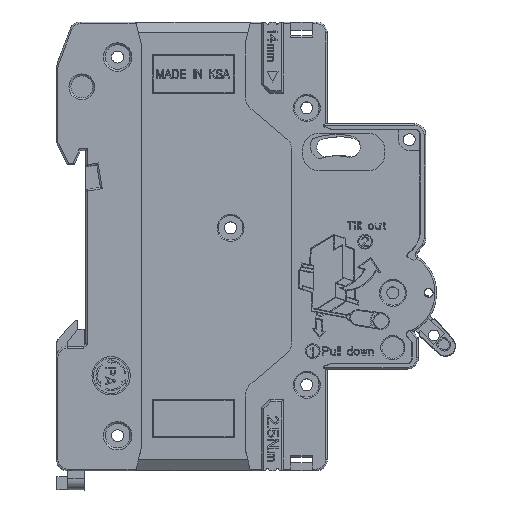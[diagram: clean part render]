
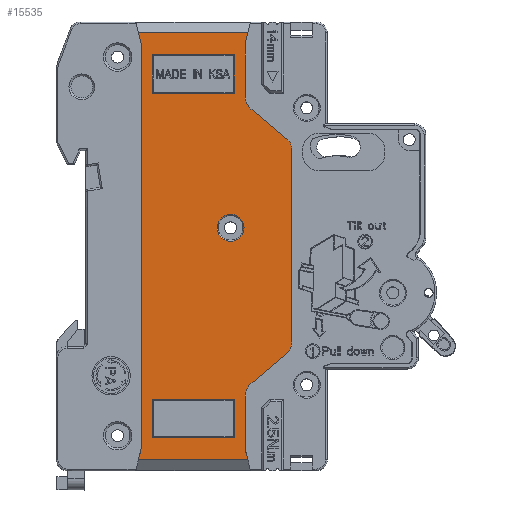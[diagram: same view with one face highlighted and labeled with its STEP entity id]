
A CAD part, top view. The second image highlights one B-rep face of the part: STEP entity #15535.
In plain terms, the highlighted planar face has unit normal (0, 0, 1).
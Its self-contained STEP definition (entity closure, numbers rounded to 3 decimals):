
#8459=FACE_BOUND('',#28441,.T.);
#8460=FACE_BOUND('',#28442,.T.);
#8461=FACE_BOUND('',#28443,.T.);
#8462=FACE_BOUND('',#28444,.T.);
#10696=CIRCLE('',#102386,3.);
#10697=CIRCLE('',#102389,3.);
#10700=CIRCLE('',#102394,2.);
#10702=CIRCLE('',#102398,3.);
#10717=CIRCLE('',#102479,2.45);
#15535=ADVANCED_FACE('',(#8459,#8460,#8461,#8462),#19314,.F.);
#19314=PLANE('',#102480);
#28441=EDGE_LOOP('',(#50000));
#28442=EDGE_LOOP('',(#50001,#50002,#50003,#50004));
#28443=EDGE_LOOP('',(#50005,#50006,#50007,#50008));
#28444=EDGE_LOOP('',(#50009,#50010,#50011,#50012,#50013,#50014,#50015,#50016,
#50017,#50018,#50019,#50020,#50021,#50022,#50023,#50024));
#50000=ORIENTED_EDGE('',*,*,#74603,.F.);
#50001=ORIENTED_EDGE('',*,*,#73559,.T.);
#50002=ORIENTED_EDGE('',*,*,#73557,.T.);
#50003=ORIENTED_EDGE('',*,*,#73555,.T.);
#50004=ORIENTED_EDGE('',*,*,#73560,.T.);
#50005=ORIENTED_EDGE('',*,*,#73583,.T.);
#50006=ORIENTED_EDGE('',*,*,#73581,.T.);
#50007=ORIENTED_EDGE('',*,*,#73579,.T.);
#50008=ORIENTED_EDGE('',*,*,#73584,.T.);
#50009=ORIENTED_EDGE('',*,*,#74383,.F.);
#50010=ORIENTED_EDGE('',*,*,#74386,.T.);
#50011=ORIENTED_EDGE('',*,*,#74389,.F.);
#50012=ORIENTED_EDGE('',*,*,#74392,.F.);
#50013=ORIENTED_EDGE('',*,*,#74394,.F.);
#50014=ORIENTED_EDGE('',*,*,#74396,.F.);
#50015=ORIENTED_EDGE('',*,*,#74401,.F.);
#50016=ORIENTED_EDGE('',*,*,#74404,.F.);
#50017=ORIENTED_EDGE('',*,*,#74407,.F.);
#50018=ORIENTED_EDGE('',*,*,#74410,.T.);
#50019=ORIENTED_EDGE('',*,*,#74417,.F.);
#50020=ORIENTED_EDGE('',*,*,#74413,.F.);
#50021=ORIENTED_EDGE('',*,*,#74592,.F.);
#50022=ORIENTED_EDGE('',*,*,#74595,.T.);
#50023=ORIENTED_EDGE('',*,*,#74599,.F.);
#50024=ORIENTED_EDGE('',*,*,#74602,.F.);
#61781=VERTEX_POINT('',#164812);
#61782=VERTEX_POINT('',#164814);
#61783=VERTEX_POINT('',#164818);
#61784=VERTEX_POINT('',#164822);
#61797=VERTEX_POINT('',#164861);
#61798=VERTEX_POINT('',#164863);
#61799=VERTEX_POINT('',#164867);
#61800=VERTEX_POINT('',#164871);
#62326=VERTEX_POINT('',#166524);
#62328=VERTEX_POINT('',#166529);
#62330=VERTEX_POINT('',#166535);
#62332=VERTEX_POINT('',#166541);
#62334=VERTEX_POINT('',#166547);
#62335=VERTEX_POINT('',#166551);
#62337=VERTEX_POINT('',#166557);
#62340=VERTEX_POINT('',#166565);
#62342=VERTEX_POINT('',#166571);
#62344=VERTEX_POINT('',#166577);
#62346=VERTEX_POINT('',#166583);
#62349=VERTEX_POINT('',#166590);
#62350=VERTEX_POINT('',#166592);
#62449=VERTEX_POINT('',#166926);
#62451=VERTEX_POINT('',#166932);
#62455=VERTEX_POINT('',#166941);
#62456=VERTEX_POINT('',#166949);
#73555=EDGE_CURVE('',#61781,#61782,#84206,.T.);
#73557=EDGE_CURVE('',#61783,#61781,#84208,.T.);
#73559=EDGE_CURVE('',#61784,#61783,#84210,.T.);
#73560=EDGE_CURVE('',#61782,#61784,#84211,.T.);
#73579=EDGE_CURVE('',#61797,#61798,#84230,.T.);
#73581=EDGE_CURVE('',#61799,#61797,#84232,.T.);
#73583=EDGE_CURVE('',#61800,#61799,#84234,.T.);
#73584=EDGE_CURVE('',#61798,#61800,#84235,.T.);
#74383=EDGE_CURVE('',#62328,#62326,#84990,.T.);
#74386=EDGE_CURVE('',#62328,#62330,#84993,.T.);
#74389=EDGE_CURVE('',#62332,#62330,#10696,.T.);
#74392=EDGE_CURVE('',#62334,#62332,#84997,.T.);
#74394=EDGE_CURVE('',#62335,#62334,#10697,.T.);
#74396=EDGE_CURVE('',#62337,#62335,#84999,.T.);
#74401=EDGE_CURVE('',#62340,#62337,#10700,.T.);
#74404=EDGE_CURVE('',#62342,#62340,#85005,.T.);
#74407=EDGE_CURVE('',#62344,#62342,#10702,.T.);
#74410=EDGE_CURVE('',#62344,#62346,#85009,.T.);
#74413=EDGE_CURVE('',#62349,#62350,#85012,.T.);
#74417=EDGE_CURVE('',#62350,#62346,#85015,.T.);
#74592=EDGE_CURVE('',#62449,#62349,#85175,.T.);
#74595=EDGE_CURVE('',#62449,#62451,#85178,.T.);
#74599=EDGE_CURVE('',#62455,#62451,#85181,.T.);
#74602=EDGE_CURVE('',#62326,#62455,#85184,.T.);
#74603=EDGE_CURVE('',#62456,#62456,#10717,.T.);
#84206=LINE('',#164815,#94712);
#84208=LINE('',#164819,#94714);
#84210=LINE('',#164823,#94716);
#84211=LINE('',#164825,#94717);
#84230=LINE('',#164864,#94736);
#84232=LINE('',#164868,#94738);
#84234=LINE('',#164872,#94740);
#84235=LINE('',#164874,#94741);
#84990=LINE('',#166530,#95496);
#84993=LINE('',#166536,#95499);
#84997=LINE('',#166548,#95503);
#84999=LINE('',#166556,#95505);
#85005=LINE('',#166572,#95511);
#85009=LINE('',#166584,#95515);
#85012=LINE('',#166591,#95518);
#85015=LINE('',#166599,#95521);
#85175=LINE('',#166927,#95681);
#85178=LINE('',#166933,#95684);
#85181=LINE('',#166942,#95687);
#85184=LINE('',#166946,#95690);
#94712=VECTOR('',#121235,1.);
#94714=VECTOR('',#121239,1.);
#94716=VECTOR('',#121243,1.);
#94717=VECTOR('',#121246,1.);
#94736=VECTOR('',#121277,1.);
#94738=VECTOR('',#121281,1.);
#94740=VECTOR('',#121285,1.);
#94741=VECTOR('',#121288,1.);
#95496=VECTOR('',#122685,1.);
#95499=VECTOR('',#122690,1.);
#95503=VECTOR('',#122702,1.);
#95505=VECTOR('',#122712,1.);
#95511=VECTOR('',#122726,1.);
#95515=VECTOR('',#122738,1.);
#95518=VECTOR('',#122743,1.);
#95521=VECTOR('',#122750,1.);
#95681=VECTOR('',#123052,1.);
#95684=VECTOR('',#123057,1.);
#95687=VECTOR('',#123064,1.);
#95690=VECTOR('',#123069,1.);
#102386=AXIS2_PLACEMENT_3D('',#166542,#122696,#122697);
#102389=AXIS2_PLACEMENT_3D('',#166553,#122706,#122707);
#102394=AXIS2_PLACEMENT_3D('',#166566,#122720,#122721);
#102398=AXIS2_PLACEMENT_3D('',#166578,#122732,#122733);
#102479=AXIS2_PLACEMENT_3D('',#166948,#123072,#123073);
#102480=AXIS2_PLACEMENT_3D('',#166950,#123074,#123075);
#121235=DIRECTION('',(0.,1.,0.));
#121239=DIRECTION('',(-1.,0.,0.));
#121243=DIRECTION('',(0.,-1.,0.));
#121246=DIRECTION('',(1.,0.,0.));
#121277=DIRECTION('',(0.,1.,0.));
#121281=DIRECTION('',(-1.,0.,0.));
#121285=DIRECTION('',(0.,-1.,0.));
#121288=DIRECTION('',(1.,0.,0.));
#122685=DIRECTION('',(0.243,-0.97,0.));
#122690=DIRECTION('',(0.,1.,0.));
#122696=DIRECTION('',(0.,0.,1.));
#122697=DIRECTION('',(-0.643,0.766,0.));
#122702=DIRECTION('',(-0.766,-0.643,0.));
#122706=DIRECTION('',(0.,0.,-1.));
#122707=DIRECTION('',(1.,0.,0.));
#122712=DIRECTION('',(0.,-1.,0.));
#122720=DIRECTION('',(0.,0.,-1.));
#122721=DIRECTION('',(-1.,0.,0.));
#122726=DIRECTION('',(0.766,-0.643,0.));
#122732=DIRECTION('',(0.,0.,1.));
#122733=DIRECTION('',(-1.,0.,0.));
#122738=DIRECTION('',(0.,1.,0.));
#122743=DIRECTION('',(1.,0.,0.));
#122750=DIRECTION('',(-0.243,-0.97,0.));
#123052=DIRECTION('',(-0.243,0.97,0.));
#123057=DIRECTION('',(0.,-1.,0.));
#123064=DIRECTION('',(0.243,0.97,0.));
#123069=DIRECTION('',(-1.,0.,0.));
#123072=DIRECTION('',(0.,0.,1.));
#123073=DIRECTION('',(0.,1.,0.));
#123074=DIRECTION('',(0.,0.,-1.));
#123075=DIRECTION('',(0.,1.,0.));
#164812=CARTESIAN_POINT('',(25.393,-89.563,71.498));
#164814=CARTESIAN_POINT('',(25.393,-82.563,71.498));
#164815=CARTESIAN_POINT('',(25.393,-89.563,71.498));
#164818=CARTESIAN_POINT('',(40.393,-89.563,71.498));
#164819=CARTESIAN_POINT('',(40.393,-89.563,71.498));
#164822=CARTESIAN_POINT('',(40.393,-82.563,71.498));
#164823=CARTESIAN_POINT('',(40.393,-82.563,71.498));
#164825=CARTESIAN_POINT('',(25.393,-82.563,71.498));
#164861=CARTESIAN_POINT('',(25.393,-26.563,71.498));
#164863=CARTESIAN_POINT('',(25.393,-19.563,71.498));
#164864=CARTESIAN_POINT('',(25.393,-26.563,71.498));
#164867=CARTESIAN_POINT('',(40.393,-26.563,71.498));
#164868=CARTESIAN_POINT('',(40.393,-26.563,71.498));
#164871=CARTESIAN_POINT('',(40.393,-19.563,71.498));
#164872=CARTESIAN_POINT('',(40.393,-19.563,71.498));
#164874=CARTESIAN_POINT('',(25.393,-19.563,71.498));
#166524=CARTESIAN_POINT('',(42.893,-93.563,71.498));
#166529=CARTESIAN_POINT('',(42.393,-91.563,71.498));
#166530=CARTESIAN_POINT('',(42.393,-91.563,71.498));
#166535=CARTESIAN_POINT('',(42.393,-81.962,71.498));
#166536=CARTESIAN_POINT('',(42.393,-86.763,71.498));
#166541=CARTESIAN_POINT('',(43.464,-79.664,71.498));
#166542=CARTESIAN_POINT('',(45.393,-81.962,71.498));
#166547=CARTESIAN_POINT('',(49.821,-74.33,71.498));
#166548=CARTESIAN_POINT('',(46.643,-76.997,71.498));
#166551=CARTESIAN_POINT('',(50.893,-72.032,71.498));
#166553=CARTESIAN_POINT('',(47.893,-72.032,71.498));
#166556=CARTESIAN_POINT('',(50.893,-54.563,71.498));
#166557=CARTESIAN_POINT('',(50.893,-36.628,71.498));
#166565=CARTESIAN_POINT('',(50.178,-35.096,71.498));
#166566=CARTESIAN_POINT('',(48.893,-36.628,71.498));
#166571=CARTESIAN_POINT('',(43.464,-29.463,71.498));
#166572=CARTESIAN_POINT('',(52.115,-36.721,71.498));
#166577=CARTESIAN_POINT('',(42.393,-27.165,71.498));
#166578=CARTESIAN_POINT('',(45.393,-27.165,71.498));
#166583=CARTESIAN_POINT('',(42.393,-17.563,71.498));
#166584=CARTESIAN_POINT('',(42.393,-22.364,71.498));
#166590=CARTESIAN_POINT('',(22.893,-15.563,71.498));
#166591=CARTESIAN_POINT('',(22.893,-15.563,71.498));
#166592=CARTESIAN_POINT('',(42.893,-15.563,71.498));
#166599=CARTESIAN_POINT('',(42.893,-15.563,71.498));
#166926=CARTESIAN_POINT('',(23.393,-17.563,71.498));
#166927=CARTESIAN_POINT('',(23.393,-17.563,71.498));
#166932=CARTESIAN_POINT('',(23.393,-91.563,71.498));
#166933=CARTESIAN_POINT('',(23.393,-17.563,71.498));
#166941=CARTESIAN_POINT('',(22.893,-93.563,71.498));
#166942=CARTESIAN_POINT('',(22.893,-93.563,71.498));
#166946=CARTESIAN_POINT('',(42.893,-93.563,71.498));
#166948=CARTESIAN_POINT('',(39.738,-51.172,71.498));
#166949=CARTESIAN_POINT('',(39.738,-48.722,71.498));
#166950=CARTESIAN_POINT('',(37.143,-54.563,71.498));
